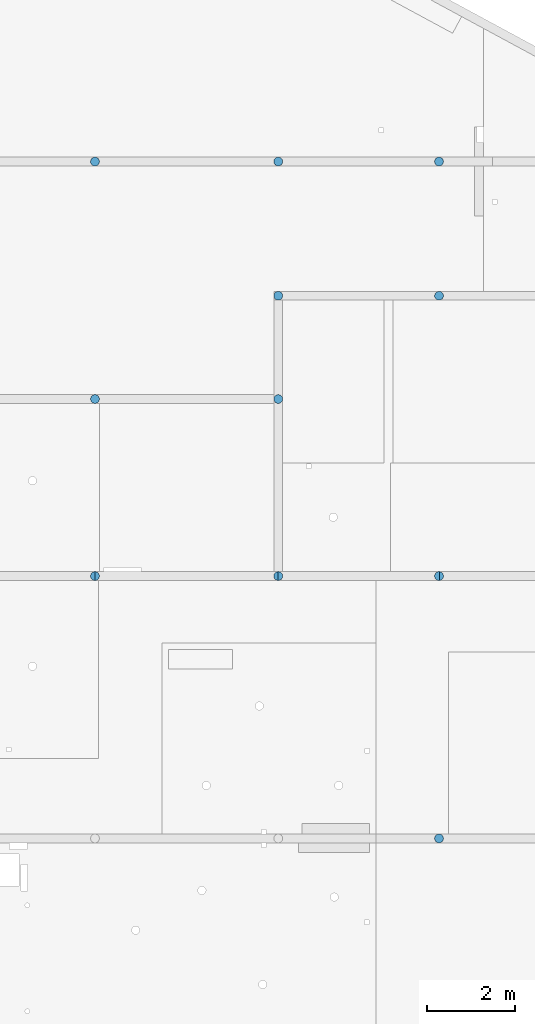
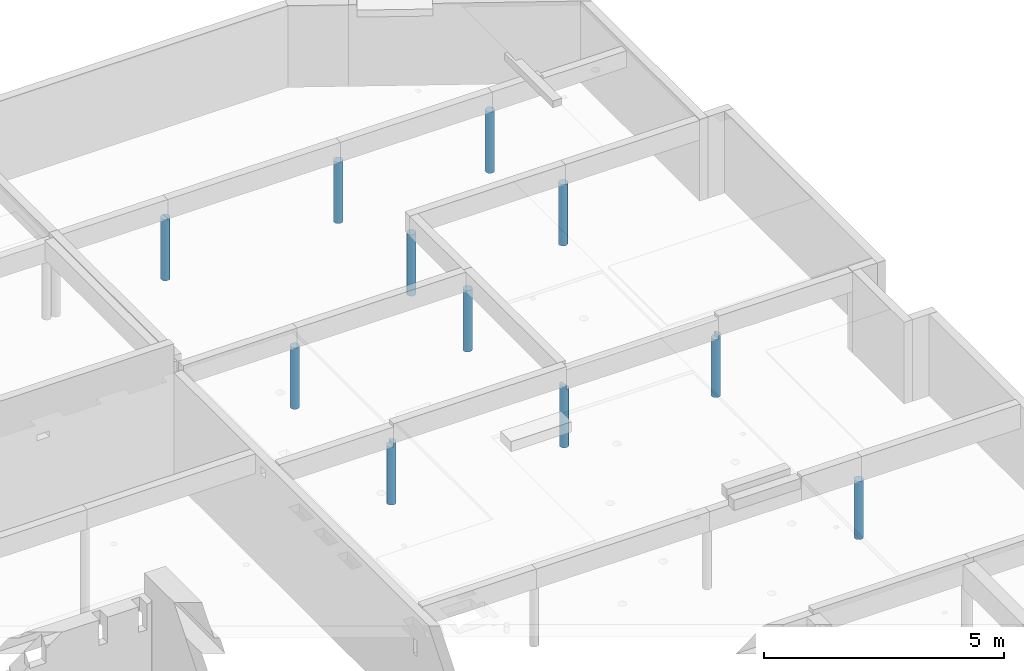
# One storey, part 3 of 28: 11 columns.
"""IFC2X3 building model written with IfcOpenShell, lengths in metres."""

from ifc_helpers import new_model, entity, si_unit, converted_unit, direction, frame, frame_2d, origin, origin_with_axes, place, context, subcontext, project, spatial, polyline, circle, outline, extrude, clip, bounded_halfspace, material, element, save


model = new_model("IFC2X3")

# Units and contexts
model_context = context("Model", 3, precision=1e-05, world=origin(), true_north=direction((-0.407059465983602, -0.913401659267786)))
body_context = subcontext(model_context, "Body", "Model", "MODEL_VIEW")
ifc_project = project(units=[si_unit("LENGTHUNIT", "METRE"), si_unit("AREAUNIT", "SQUARE_METRE"), si_unit("VOLUMEUNIT", "CUBIC_METRE"), si_unit("MASSUNIT", "GRAM", prefix="KILO"), converted_unit("PLANEANGLEUNIT", "DEGREE", entity("IfcPlaneAngleMeasure", 0.0174532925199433), si_unit("PLANEANGLEUNIT", "RADIAN"), dimensions=[0, 0, 0, 0, 0, 0, 0])], contexts=[model_context])

# Site, buildings, storey
site_placement = place(None, origin())
site = spatial("IfcSite", under=ifc_project, at=site_placement, Name="Site", CompositionType="ELEMENT")
building_1_placement = place(site_placement, origin())
building_1 = spatial("IfcBuilding", under=site, at=building_1_placement, Name="Site", CompositionType="COMPLEX")
building_2_placement = place(building_1_placement, origin())
building_2 = spatial("IfcBuilding", under=building_1, at=building_2_placement, Name="Bâtiments", CompositionType="ELEMENT")
storey_placement = place(building_2_placement, frame((0.0, 0.0, -5.3)))
storey = spatial("IfcBuildingStorey", under=building_2, at=storey_placement, Name="SOUS-SOL", CompositionType="ELEMENT", Elevation=-5.3)

# Columns
ifc_material_1 = material(Name="Béton")
column_1_placement = place(storey_placement, frame((70.2328311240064, -0.0481784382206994, 3.2)))
element("IfcColumn", 1, at=column_1_placement, inside=storey, material=ifc_material_1, Name="Pot 027", context=body_context, shape_type="SweptSolid", body=[
    extrude(circle(Radius=0.1, at=frame_2d((0.1, 0.1), x_axis=(1.0, 0.0))), origin_with_axes(), (0.0, 0.0, 1.0), 1.56),
])
ifc_material_2 = material(Name="Béton")
column_2_placement = place(storey_placement, frame((66.0730721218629, -0.0481464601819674, 3.2)))
element("IfcColumn", 2, at=column_2_placement, inside=storey, material=ifc_material_2, Name="Pot 026", context=body_context, shape_type="Clipping", body=[
    clip(clip(extrude(outline(polyline([(0.10861321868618, 0.199745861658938), (0.091137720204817, 0.199746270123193), (0.0739276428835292, 0.196712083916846), (0.0575059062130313, 0.190735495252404), (0.0423714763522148, 0.181998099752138), (0.0289842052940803, 0.170765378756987), (0.0177508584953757, 0.157378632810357), (0.00901275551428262, 0.142244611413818), (0.00303539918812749, 0.125823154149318), (4.08464256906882e-07, 0.108613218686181), (0.0, 0.0911377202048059), (0.00303418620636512, 0.0739276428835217), (0.00901077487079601, 0.0575059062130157), (0.0177481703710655, 0.0423714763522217), (0.0289808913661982, 0.0289842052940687), (0.0423676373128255, 0.0177508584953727), (0.0575016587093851, 0.0090127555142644), (0.0739231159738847, 0.00303539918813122), (0.0911330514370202, 4.08464254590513e-07), (0.108608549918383, 0.0), (0.125818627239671, 0.00303418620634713), (0.142240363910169, 0.00901077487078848), (0.157374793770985, 0.0177481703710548), (0.170762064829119, 0.0289808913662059), (0.181995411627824, 0.0423676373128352), (0.190733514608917, 0.0575016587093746), (0.196710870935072, 0.0739231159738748), (0.199745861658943, 0.0911330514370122), (0.1997462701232, 0.108608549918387), (0.196712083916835, 0.125818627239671), (0.190735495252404, 0.142240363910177), (0.181998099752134, 0.157374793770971), (0.170765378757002, 0.170762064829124), (0.157378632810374, 0.18199541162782), (0.142244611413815, 0.190733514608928), (0.125823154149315, 0.196710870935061), (0.10861321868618, 0.199745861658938)])), origin_with_axes(), (0.0, 0.0, 1.0), 1.58), bounded_halfspace(frame((0.157418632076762, 0.099871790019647, 1.56), z_axis=(0.0, 0.0, -1.0), x_axis=(0.0, -1.0, 0.0)), True, origin_with_axes(), polyline([(0.100182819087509, 0.199746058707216), (0.100182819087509, 1.96939152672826e-07), (0.108608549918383, 1.4210854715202e-17), (0.125818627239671, 0.00303418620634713), (0.142240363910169, 0.00901077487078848), (0.157374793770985, 0.0177481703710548), (0.170762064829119, 0.0289808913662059), (0.181995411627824, 0.0423676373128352), (0.190733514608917, 0.0575016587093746), (0.196710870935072, 0.0739231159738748), (0.199745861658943, 0.0911330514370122), (0.1997462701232, 0.108608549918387), (0.196712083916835, 0.125818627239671), (0.190735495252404, 0.142240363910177), (0.181998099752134, 0.157374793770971), (0.170765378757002, 0.170762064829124), (0.157378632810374, 0.18199541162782), (0.142244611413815, 0.190733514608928), (0.125823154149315, 0.196710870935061), (0.10861321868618, 0.199745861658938), (0.100182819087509, 0.199746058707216)]))), bounded_halfspace(frame((0.0423586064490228, 0.0998744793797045, 1.56), z_axis=(0.0, 0.0, -1.0), x_axis=(0.0, 1.0, 0.0)), True, origin_with_axes(), polyline([(0.0998731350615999, 2.04177564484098e-07), (0.0998731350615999, 0.199746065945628), (0.091137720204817, 0.199746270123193), (0.0739276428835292, 0.196712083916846), (0.0575059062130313, 0.190735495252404), (0.0423714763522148, 0.181998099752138), (0.0289842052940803, 0.170765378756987), (0.0177508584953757, 0.157378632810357), (0.00901275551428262, 0.142244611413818), (0.00303539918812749, 0.125823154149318), (4.08464256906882e-07, 0.108613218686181), (0.0, 0.0911377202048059), (0.00303418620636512, 0.0739276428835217), (0.00901077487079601, 0.0575059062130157), (0.0177481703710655, 0.0423714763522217), (0.0289808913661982, 0.0289842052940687), (0.0423676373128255, 0.0177508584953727), (0.0575016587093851, 0.0090127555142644), (0.0739231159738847, 0.00303539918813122), (0.0911330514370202, 4.08464254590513e-07), (0.0998731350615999, 2.04177564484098e-07)]))),
])
ifc_material_3 = material(Name="Béton")
column_3_placement = place(storey_placement, frame((70.2328311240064, -3.09565614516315, 3.2)))
element("IfcColumn", 3, at=column_3_placement, inside=storey, material=ifc_material_3, Name="Pot 029", context=body_context, shape_type="SweptSolid", body=[
    extrude(circle(Radius=0.0999999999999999, at=frame_2d((0.0999999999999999, 0.0999999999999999), x_axis=(1.0, 0.0))), origin_with_axes(), (0.0, 0.0, 1.0), 1.56),
])
ifc_material_4 = material(Name="Béton")
column_4_placement = place(storey_placement, frame((73.8828326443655, -3.09548574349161, 3.2)))
element("IfcColumn", 4, at=column_4_placement, inside=storey, material=ifc_material_4, Name="Pot 030", context=body_context, shape_type="SweptSolid", body=[
    extrude(circle(Radius=0.0999999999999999, at=frame_2d((0.0999999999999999, 0.0999999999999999), x_axis=(1.0, 0.0))), origin_with_axes(), (0.0, 0.0, 1.0), 1.56),
])
ifc_material_5 = material(Name="Béton")
column_5_placement = place(storey_placement, frame((73.882151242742, -0.048270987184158, 3.2)))
element("IfcColumn", 5, at=column_5_placement, inside=storey, material=ifc_material_5, Name="Pot 028", context=body_context, shape_type="SweptSolid", body=[
    extrude(circle(Radius=0.1, at=frame_2d((0.1, 0.1), x_axis=(1.0, 0.0))), origin_with_axes(), (0.0, 0.0, 1.0), 1.56),
])
ifc_material_6 = material(Name="Béton")
column_6_placement = place(storey_placement, frame((70.2328615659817, -5.43898075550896, 3.2)))
element("IfcColumn", 6, at=column_6_placement, inside=storey, material=ifc_material_6, Name="Pot 037", context=body_context, shape_type="SweptSolid", body=[
    extrude(circle(Radius=0.1, at=frame_2d((0.1, 0.1), x_axis=(1.0, 0.0))), origin_with_axes(), (0.0, 0.0, 1.0), 1.56),
])
ifc_material_7 = material(Name="Béton")
column_7_placement = place(storey_placement, frame((66.0729491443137, -5.43902728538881, 3.2)))
element("IfcColumn", 7, at=column_7_placement, inside=storey, material=ifc_material_7, Name="Pot 036", context=body_context, shape_type="SweptSolid", body=[
    extrude(circle(Radius=0.1, at=frame_2d((0.1, 0.1), x_axis=(1.0, 0.0))), origin_with_axes(), (0.0, 0.0, 1.0), 1.56),
])
ifc_material_8 = material(Name="Béton")
column_8_placement = place(storey_placement, frame((73.8821159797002, -15.4132553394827, 3.2)))
element("IfcColumn", 8, at=column_8_placement, inside=storey, material=ifc_material_8, Name="Pot 049", context=body_context, shape_type="SweptSolid", body=[
    extrude(circle(Radius=0.1, at=frame_2d((0.1, 0.1), x_axis=(1.0, 0.0))), origin_with_axes(), (0.0, 0.0, 1.0), 1.48),
])
ifc_material_9 = material(Name="Béton")
column_9_placement = place(storey_placement, frame((66.0730723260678, -9.45731512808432, 3.2)))
element("IfcColumn", 9, at=column_9_placement, inside=storey, material=ifc_material_9, Name="Pot 043", context=body_context, shape_type="Clipping", body=[
    clip(extrude(outline(polyline([(0.108610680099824, 0.199745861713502), (0.0911351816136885, 0.199745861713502), (0.0739251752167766, 0.19671127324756), (0.0575035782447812, 0.190734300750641), (0.042369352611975, 0.181996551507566), (0.028982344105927, 0.170763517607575), (0.0177493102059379, 0.157376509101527), (0.00901156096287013, 0.142242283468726), (0.00303458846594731, 0.125820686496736), (0.0, 0.108610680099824), (0.0, 0.0911351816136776), (0.00303458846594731, 0.0739251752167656), (0.00901156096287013, 0.0575035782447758), (0.0177493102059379, 0.042369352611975), (0.028982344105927, 0.028982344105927), (0.042369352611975, 0.0177493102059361), (0.0575035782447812, 0.00901156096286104), (0.0739251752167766, 0.00303458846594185), (0.0911351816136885, 0.0), (0.108610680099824, 0.0), (0.125820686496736, 0.00303458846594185), (0.142242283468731, 0.00901156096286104), (0.157376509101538, 0.0177493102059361), (0.170763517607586, 0.028982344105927), (0.181996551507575, 0.042369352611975), (0.190734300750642, 0.0575035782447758), (0.196711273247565, 0.0739251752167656), (0.199745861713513, 0.0911351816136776), (0.199745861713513, 0.108610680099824), (0.196711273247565, 0.125820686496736), (0.190734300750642, 0.142242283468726), (0.181996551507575, 0.157376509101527), (0.170763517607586, 0.170763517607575), (0.157376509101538, 0.181996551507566), (0.142242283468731, 0.190734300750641), (0.125820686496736, 0.19671127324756), (0.108610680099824, 0.199745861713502)])), origin_with_axes(), (0.0, 0.0, 1.0), 1.56), bounded_halfspace(frame((0.0423557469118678, 0.0998729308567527, 1.48), z_axis=(0.0, 0.0, -1.0), x_axis=(2.20167412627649e-05, 0.999999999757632, 0.0)), True, origin_with_axes(), polyline([(0.0998441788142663, 0.0), (0.0998485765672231, 0.199745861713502), (0.0911351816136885, 0.199745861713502), (0.0739251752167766, 0.19671127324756), (0.0575035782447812, 0.190734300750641), (0.042369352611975, 0.181996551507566), (0.028982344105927, 0.170763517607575), (0.0177493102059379, 0.157376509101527), (0.00901156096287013, 0.142242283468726), (0.00303458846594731, 0.125820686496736), (0.0, 0.108610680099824), (0.0, 0.0911351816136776), (0.00303458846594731, 0.0739251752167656), (0.00901156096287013, 0.0575035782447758), (0.0177493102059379, 0.042369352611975), (0.028982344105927, 0.028982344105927), (0.042369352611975, 0.0177493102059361), (0.0575035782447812, 0.00901156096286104), (0.0739251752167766, 0.00303458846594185), (0.0911351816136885, 0.0), (0.0998441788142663, 0.0)]))),
])
ifc_material_10 = material(Name="Béton")
column_10_placement = place(storey_placement, frame((70.2329581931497, -9.457332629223, 3.2)))
element("IfcColumn", 10, at=column_10_placement, inside=storey, material=ifc_material_10, Name="Pot 044", context=body_context, shape_type="Clipping", body=[
    clip(clip(extrude(outline(polyline([(0.108610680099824, 0.199745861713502), (0.0911351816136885, 0.199745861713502), (0.0739251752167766, 0.19671127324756), (0.0575035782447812, 0.190734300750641), (0.042369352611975, 0.181996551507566), (0.028982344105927, 0.170763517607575), (0.0177493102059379, 0.157376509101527), (0.00901156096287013, 0.142242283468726), (0.00303458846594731, 0.125820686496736), (0.0, 0.108610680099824), (0.0, 0.0911351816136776), (0.00303458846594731, 0.0739251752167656), (0.00901156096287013, 0.0575035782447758), (0.0177493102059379, 0.042369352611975), (0.028982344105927, 0.028982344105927), (0.042369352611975, 0.0177493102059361), (0.0575035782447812, 0.00901156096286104), (0.0739251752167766, 0.00303458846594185), (0.0911351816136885, 0.0), (0.108610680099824, 0.0), (0.125820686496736, 0.00303458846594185), (0.142242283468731, 0.00901156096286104), (0.157376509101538, 0.0177493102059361), (0.170763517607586, 0.028982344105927), (0.181996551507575, 0.042369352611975), (0.190734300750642, 0.0575035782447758), (0.196711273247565, 0.0739251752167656), (0.199745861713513, 0.0911351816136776), (0.199745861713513, 0.108610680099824), (0.196711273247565, 0.125820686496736), (0.190734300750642, 0.142242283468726), (0.181996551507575, 0.157376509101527), (0.170763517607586, 0.170763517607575), (0.157376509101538, 0.181996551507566), (0.142242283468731, 0.190734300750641), (0.125820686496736, 0.19671127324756), (0.108610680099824, 0.199745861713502)])), origin_with_axes(), (0.0, 0.0, 1.0), 1.58), bounded_halfspace(frame((0.157387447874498, 0.0998729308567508, 1.48), z_axis=(0.0, 0.0, -1.0), x_axis=(0.00112711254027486, -0.999999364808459, 0.0)), True, origin_with_axes(), polyline([(0.0997602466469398, 0.199745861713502), (0.0999853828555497, 0.0), (0.108610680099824, 0.0), (0.125820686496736, 0.00303458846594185), (0.142242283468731, 0.00901156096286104), (0.157376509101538, 0.0177493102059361), (0.170763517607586, 0.028982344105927), (0.181996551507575, 0.042369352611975), (0.190734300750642, 0.0575035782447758), (0.196711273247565, 0.0739251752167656), (0.199745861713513, 0.0911351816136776), (0.199745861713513, 0.108610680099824), (0.196711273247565, 0.125820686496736), (0.190734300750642, 0.142242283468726), (0.181996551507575, 0.157376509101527), (0.170763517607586, 0.170763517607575), (0.157376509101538, 0.181996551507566), (0.142242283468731, 0.190734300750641), (0.125820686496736, 0.19671127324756), (0.108610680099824, 0.199745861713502), (0.0997602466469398, 0.199745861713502)]))), bounded_halfspace(frame((0.0450918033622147, 0.0998680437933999, 1.56), z_axis=(0.0, 0.0, -1.0), x_axis=(-1.0, 0.0, 0.0)), True, origin_with_axes(), polyline([(0.0997602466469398, 0.199745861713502), (0.0911351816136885, 0.199745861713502), (0.0739251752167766, 0.19671127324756), (0.0575035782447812, 0.190734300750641), (0.042369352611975, 0.181996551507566), (0.028982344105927, 0.170763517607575), (0.0177493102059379, 0.157376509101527), (0.00901156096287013, 0.142242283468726), (0.00303458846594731, 0.125820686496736), (0.0, 0.108610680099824), (0.0, 0.0911351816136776), (0.00303458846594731, 0.0739251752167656), (0.00901156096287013, 0.0575035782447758), (0.0177493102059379, 0.042369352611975), (0.028982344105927, 0.028982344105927), (0.042369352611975, 0.0177493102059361), (0.0575035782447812, 0.00901156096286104), (0.0739251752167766, 0.00303458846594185), (0.0911351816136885, 0.0), (0.0998725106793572, 0.0), (0.0998729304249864, 0.0997703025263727), (0.0997602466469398, 0.199745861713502)]))),
])
ifc_material_11 = material(Name="Béton")
column_11_placement = place(storey_placement, frame((73.8829597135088, -9.45735492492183, 3.2)))
element("IfcColumn", 11, at=column_11_placement, inside=storey, material=ifc_material_11, Name="Pot 045", context=body_context, shape_type="Clipping", body=[
    clip(extrude(outline(polyline([(0.108610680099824, 0.199745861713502), (0.0911351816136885, 0.199745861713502), (0.0739251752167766, 0.19671127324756), (0.0575035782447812, 0.190734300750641), (0.042369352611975, 0.181996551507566), (0.028982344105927, 0.170763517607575), (0.0177493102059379, 0.157376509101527), (0.00901156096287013, 0.142242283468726), (0.00303458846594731, 0.125820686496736), (0.0, 0.108610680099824), (0.0, 0.0911351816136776), (0.00303458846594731, 0.0739251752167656), (0.00901156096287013, 0.0575035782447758), (0.0177493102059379, 0.042369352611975), (0.028982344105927, 0.028982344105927), (0.042369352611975, 0.0177493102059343), (0.0575035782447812, 0.00901156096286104), (0.0739251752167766, 0.00303458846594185), (0.0911351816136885, 0.0), (0.108610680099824, 0.0), (0.125820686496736, 0.00303458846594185), (0.142242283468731, 0.00901156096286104), (0.157376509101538, 0.0177493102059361), (0.170763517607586, 0.028982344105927), (0.181996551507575, 0.042369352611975), (0.190734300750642, 0.0575035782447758), (0.196711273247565, 0.0739251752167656), (0.199745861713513, 0.0911351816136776), (0.199745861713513, 0.108610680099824), (0.196711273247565, 0.125820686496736), (0.190734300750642, 0.142242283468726), (0.181996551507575, 0.157376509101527), (0.170763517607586, 0.170763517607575), (0.157376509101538, 0.181996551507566), (0.142242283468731, 0.190734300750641), (0.125820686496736, 0.19671127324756), (0.108610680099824, 0.199745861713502)])), origin_with_axes(), (0.0, 0.0, 1.0), 1.56), bounded_halfspace(frame((0.0492906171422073, 0.0998789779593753, 1.48), z_axis=(0.0, 0.0, -1.0), x_axis=(0.984807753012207, -0.173648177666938, 0.0)), True, origin_with_axes(), polyline([(0.0739251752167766, 0.00303458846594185), (0.0907649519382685, 6.52814808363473e-05), (0.108985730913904, 6.61315776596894e-05), (0.109877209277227, 0.000223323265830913), (0.109868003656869, 0.199524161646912), (0.108610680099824, 0.199745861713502), (0.0911351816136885, 0.199745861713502), (0.0739251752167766, 0.19671127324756), (0.0575035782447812, 0.190734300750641), (0.042369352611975, 0.181996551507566), (0.028982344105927, 0.170763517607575), (0.0177493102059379, 0.157376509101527), (0.00901156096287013, 0.142242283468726), (0.00303458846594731, 0.125820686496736), (0.0, 0.108610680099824), (0.0, 0.0911351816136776), (0.00303458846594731, 0.0739251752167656), (0.00901156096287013, 0.0575035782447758), (0.0177493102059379, 0.042369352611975), (0.028982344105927, 0.028982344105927), (0.042369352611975, 0.0177493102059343), (0.0575035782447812, 0.00901156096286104), (0.0739251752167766, 0.00303458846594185)]))),
])

save(model, "model.ifc")
